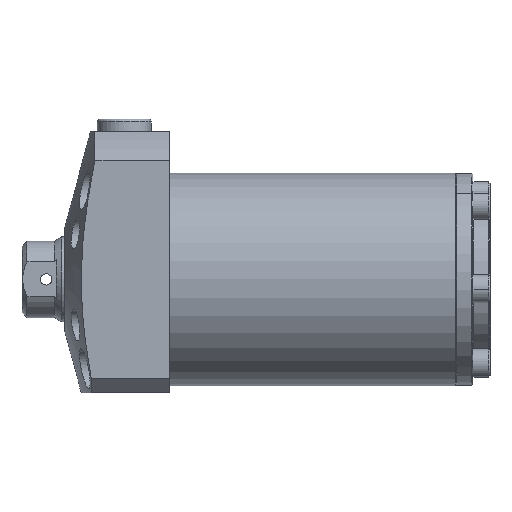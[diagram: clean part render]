
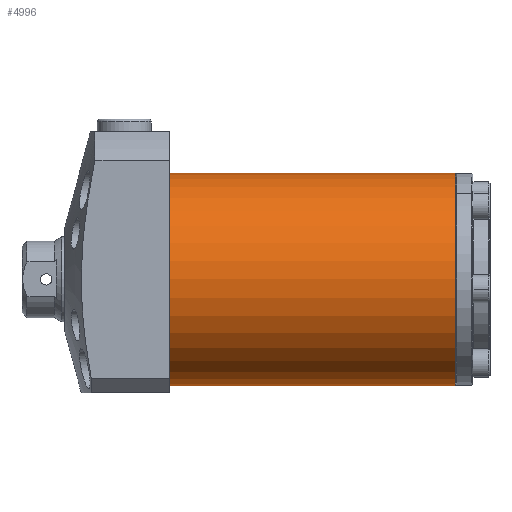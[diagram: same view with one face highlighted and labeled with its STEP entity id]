
A CAD part, left-side view. The second image highlights one B-rep face of the part: STEP entity #4996.
In plain terms, the highlighted cylindrical face has radius 37.5 mm (diameter 75 mm), a partial arc.
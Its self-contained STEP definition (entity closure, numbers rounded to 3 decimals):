
#139 = VERTEX_POINT ( 'NONE', #892 ) ;
#140 = VERTEX_POINT ( 'NONE', #893 ) ;
#144 = VERTEX_POINT ( 'NONE', #897 ) ;
#145 = VERTEX_POINT ( 'NONE', #898 ) ;
#892 = CARTESIAN_POINT ( 'NONE',  ( 0., -100.8, 37.5 ) ) ;
#893 = CARTESIAN_POINT ( 'NONE',  ( 0., -100.8, -37.5 ) ) ;
#897 = CARTESIAN_POINT ( 'NONE',  ( 0., 0., 37.5 ) ) ;
#898 = CARTESIAN_POINT ( 'NONE',  ( 0., 0., -37.5 ) ) ;
#1786 = CARTESIAN_POINT ( 'NONE',  ( 0., -100.8, -37.5 ) ) ;
#1790 = CARTESIAN_POINT ( 'NONE',  ( 0., -100.8, 37.5 ) ) ;
#1792 = LINE ( 'NONE', #1786, #7376 ) ;
#1800 = DIRECTION ( 'NONE',  ( 0., 1., 0. ) ) ;
#1804 = LINE ( 'NONE', #1790, #7377 ) ;
#1813 = DIRECTION ( 'NONE',  ( 0., 1., 0. ) ) ;
#3110 = CARTESIAN_POINT ( 'NONE',  ( 0., 0., 0. ) ) ;
#3111 = DIRECTION ( 'NONE',  ( 0., 1., 0. ) ) ;
#3112 = DIRECTION ( 'NONE',  ( 0., 0., 1. ) ) ;
#3117 = CARTESIAN_POINT ( 'NONE',  ( 0., -100.8, 0. ) ) ;
#3118 = DIRECTION ( 'NONE',  ( 0., 1., 0. ) ) ;
#3119 = DIRECTION ( 'NONE',  ( 0., 0., 1. ) ) ;
#3778 = DIRECTION ( 'NONE',  ( 0., 1., 0. ) ) ;
#3783 = FACE_OUTER_BOUND ( 'NONE', #5201, .T. ) ;
#3784 = CARTESIAN_POINT ( 'NONE',  ( 0., -100.8, 0. ) ) ;
#3785 = CYLINDRICAL_SURFACE ( 'NONE', #7809, 37.5 ) ;
#3786 = DIRECTION ( 'NONE',  ( 0., 0., 1. ) ) ;
#3983 = CIRCLE ( 'NONE', #3988, 37.5 ) ;
#3988 = AXIS2_PLACEMENT_3D ( 'NONE', #3110, #3111, #3112 ) ;
#3990 = CIRCLE ( 'NONE', #3992, 37.5 ) ;
#3992 = AXIS2_PLACEMENT_3D ( 'NONE', #3117, #3118, #3119 ) ;
#4996 = ADVANCED_FACE ( 'NONE', ( #3783 ), #3785, .T. ) ;
#5201 = EDGE_LOOP ( 'NONE', ( #5778, #5779, #5780, #5781 ) ) ;
#5778 = ORIENTED_EDGE ( 'NONE', *, *, #7517, .F. ) ;
#5779 = ORIENTED_EDGE ( 'NONE', *, *, #7582, .T. ) ;
#5780 = ORIENTED_EDGE ( 'NONE', *, *, #7519, .T. ) ;
#5781 = ORIENTED_EDGE ( 'NONE', *, *, #7579, .F. ) ;
#7376 = VECTOR ( 'NONE', #1800, 1000. ) ;
#7377 = VECTOR ( 'NONE', #1813, 1000. ) ;
#7517 = EDGE_CURVE ( 'NONE', #140, #145, #1792, .T. ) ;
#7519 = EDGE_CURVE ( 'NONE', #139, #144, #1804, .T. ) ;
#7579 = EDGE_CURVE ( 'NONE', #145, #144, #3983, .T. ) ;
#7582 = EDGE_CURVE ( 'NONE', #140, #139, #3990, .T. ) ;
#7809 = AXIS2_PLACEMENT_3D ( 'NONE', #3784, #3778, #3786 ) ;
